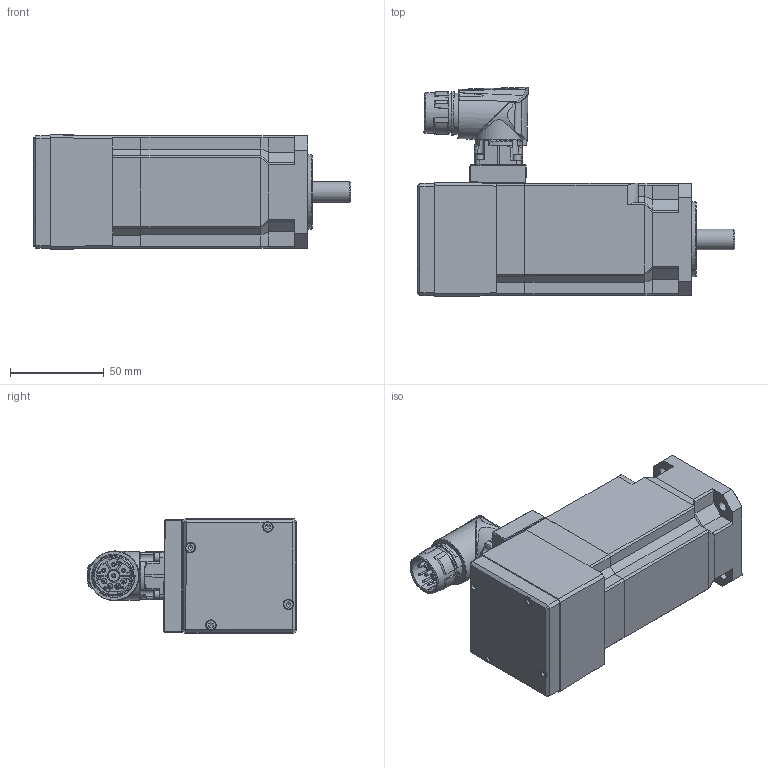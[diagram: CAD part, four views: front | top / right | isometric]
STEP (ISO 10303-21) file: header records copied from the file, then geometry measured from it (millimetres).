
FILE_DESCRIPTION(/* description */ (''),/* implementation_level */ '2;1');
FILE_NAME(/* name */ 'D:\InventorWorkspace2017\CAD\Projekte_EDEM\HLR\Zubehörteile\SMH60601,4811SIZ64S62.stp',/* time_stamp */ '2019-02-13T12:23:34+01:00',/* author */ ('544672'),/* organization */ (''),/* preprocessor_version */ 'ST-DEVELOPER v16.5',/* originating_system */ 'Autodesk Inventor 2017',/* authorisation */ '');
FILE_SCHEMA (('AUTOMOTIVE_DESIGN { 1 0 10303 214 3 1 1 }'));
Length unit declared in the file: millimetre
Products named in the file (1): SMH60451,4811SIZ64S62
Bounding box: 169.5 x 111.89 x 61.28 mm (x, y, z)
Volume: 544923.6 mm3; surface area: 55387.3 mm2
Topology: 1 solids, 1 shells, 782 faces, 1990 edges, 1270 vertices
Faces by surface type: plane 442, cylinder 182, bspline 98, cone 37, torus 23
Full cylindrical faces by diameter (mm): 1 x4, 1.18 x4, 1.75 x1, 1.945 x1, 2 x4, 2.8 x4, 3 x4, 3.167 x1, 4 x1, 4.333 x1, 4.5 x5, 5.5 x8, 5.8 x1, 5.9 x1, 6.8 x1, 11 x1, 12 x1, 19.9 x1, 21.145 x1, 21.6 x1, 21.8 x1, 21.9 x1, 24.4 x1, 28 x1, 40 x1
Entity records: 26177 total; most frequent: CARTESIAN_POINT 7572, ORIENTED_EDGE 3722, DIRECTION 3429, EDGE_CURVE 1861, VERTEX_POINT 1230, AXIS2_PLACEMENT_3D 1161, LINE 1107, VECTOR 1107
